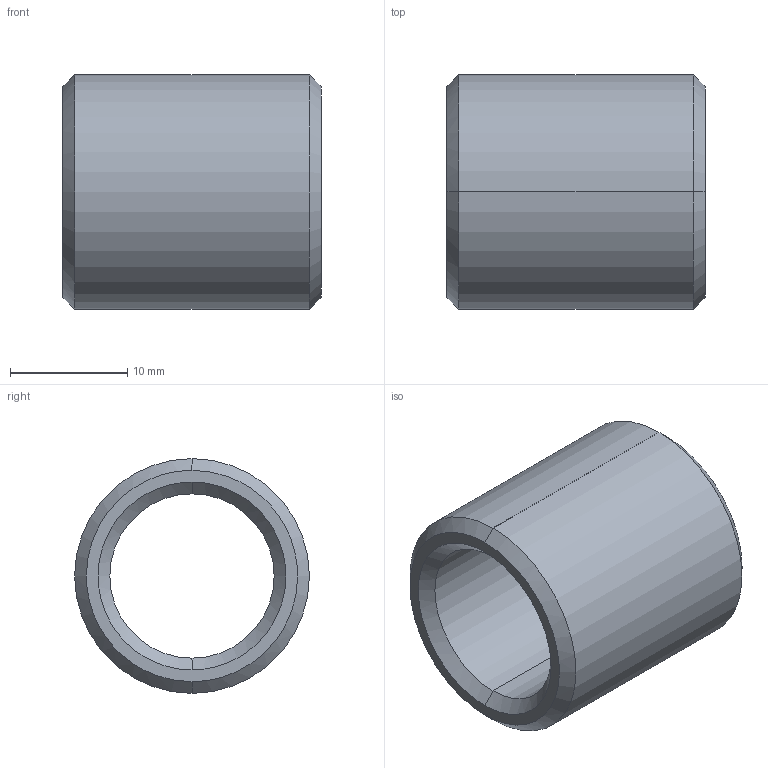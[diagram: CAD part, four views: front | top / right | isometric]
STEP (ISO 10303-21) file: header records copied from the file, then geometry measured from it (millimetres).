
FILE_DESCRIPTION(('CATIA V5 STEP Exchange'),'2;1');
FILE_NAME('C:\Users\Utente\Desktop\IO LAVORO\3D X SITO CF\X SITO\PLASTICA\352\352-14X22.stp','2021-04-10T09:21:30+00:00',('none'),('none'),'CATIA Version 5 Release 20 GA (IN-10)','CATIA V5 STEP AP203','none');
FILE_SCHEMA(('CONFIG_CONTROL_DESIGN'));
Length unit declared in the file: millimetre
Products named in the file (1): 352-14X22
Bounding box: 22 x 20 x 20 mm (x, y, z)
Volume: 3431.4 mm3; surface area: 2551.2 mm2
Topology: 1 solids, 1 shells, 14 faces, 44 edges, 32 vertices
Faces by surface type: cone 6, cylinder 4, plane 2, torus 2
Entity records: 634 total; most frequent: CARTESIAN_POINT 203, ORIENTED_EDGE 88, DIRECTION 64, EDGE_CURVE 44, AXIS2_PLACEMENT_3D 41, VERTEX_POINT 32, CIRCLE 26, EDGE_LOOP 16
